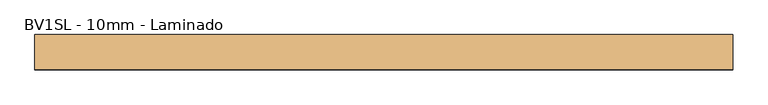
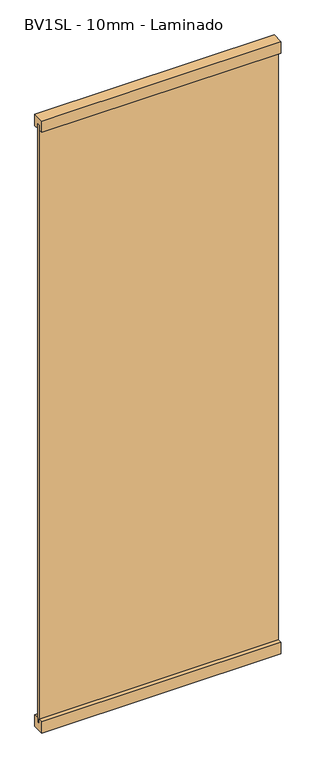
"""IFC4 building model written with IfcOpenShell, lengths in millimetres: door geometry, Mobiliário_Mobiliário de Escritório_Painel Vidro Simples - BVST e BVSL (Complementar)_Marelli : BV1SL - 10mm - Laminado."""

from ifc_helpers import new_model, si_unit, frame, origin, place, context, project, spatial, polyline, outline, extrude, source, transform, mapped, element, save


def bv1sl_10mm_laminado_d97edf1c(model_context):
    return source(origin(), model_context, "Body", "SweptSolid", [
        extrude(outline(polyline([(25.0, 0.0), (-25.0, 0.0), (-25.0, 50.0), (-5.0, 50.0), (-5.0, 30.0), (5.0, 30.0), (5.0, 50.0), (25.0, 50.0), (25.0, 0.0)])), frame((-500.0, 0.0, 0.0), z_axis=(1.0, 0.0, 0.0), x_axis=(0.0, 1.0, 0.0)), (0.0, 0.0, 1.0), 1000.0),
        extrude(outline(polyline([(500.0, 5.0), (500.0, -5.0), (-500.0, -5.0), (-500.0, 5.0), (500.0, 5.0)])), frame((0.0, 0.0, 30.0), z_axis=(0.0, 0.0, 1.0), x_axis=(1.0, 0.0, 0.0)), (0.0, 0.0, 1.0), 2640.0),
        extrude(outline(polyline([(25.0, 2700.0), (25.0, 2650.0), (5.0, 2650.0), (5.0, 2670.0), (-5.0, 2670.0), (-5.0, 2650.0), (-25.0, 2650.0), (-25.0, 2700.0), (25.0, 2700.0)])), frame((-500.0, 0.0, 0.0), z_axis=(1.0, 0.0, 0.0), x_axis=(0.0, 1.0, 0.0)), (0.0, 0.0, 1.0), 1000.0),
    ])


if __name__ == "__main__":
    model = new_model("IFC4")
    model_context = context("Model", 3, world=origin())
    ifc_project = project(units=[si_unit("LENGTHUNIT", "METRE", prefix="MILLI")], contexts=[model_context])
    site = spatial("IfcSite", under=ifc_project)
    building = spatial("IfcBuilding", under=site)
    placement = place(None, origin())
    bv1sl_10mm_laminado_shape = bv1sl_10mm_laminado_d97edf1c(model_context)
    element("IfcDoor", 1, ObjectType="Mobiliário_Mobiliário de Escritório_Painel Vidro Simples - BVST e BVSL (Complementar)_Marelli : BV1SL - 10mm - Laminado", at=placement, inside=building, context=model_context, shape_type="MappedRepresentation", body=[
        mapped(bv1sl_10mm_laminado_shape, transform((0.0, 0.0, 0.0), x_axis=(1.0, 0.0, 0.0), y_axis=(0.0, 1.0, 0.0), z_axis=(0.0, 0.0, 1.0))),
    ])
    save(model, "model.ifc")
